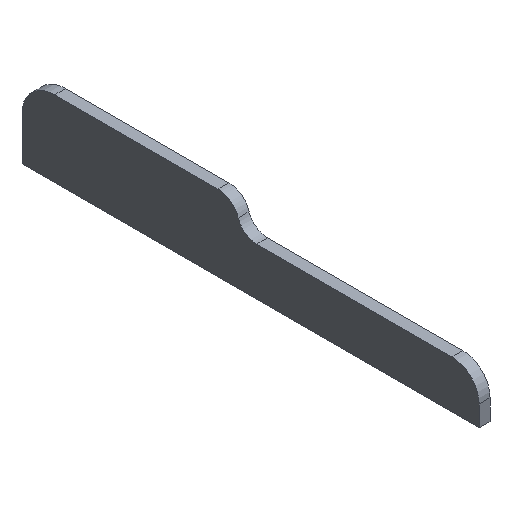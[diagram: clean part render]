
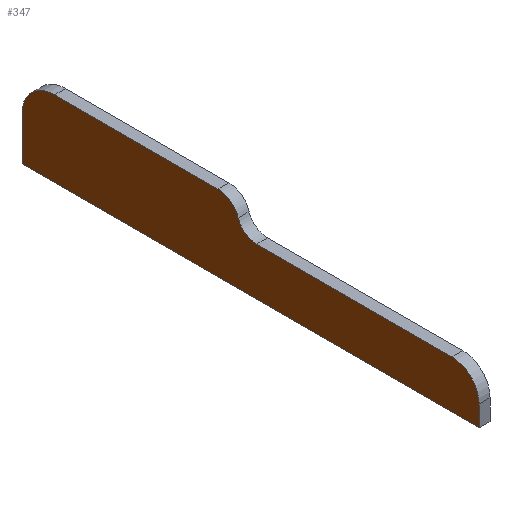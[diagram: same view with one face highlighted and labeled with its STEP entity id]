
A CAD part, isometric view. The second image highlights one B-rep face of the part: STEP entity #347.
In plain terms, the highlighted planar face has unit normal (-1, 0, 0).
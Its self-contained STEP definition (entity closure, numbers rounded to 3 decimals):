
#61=CARTESIAN_POINT('Vertex',(0.,-77.341,0.)) ;
#66=CARTESIAN_POINT('Line Origine',(0.,132.659,0.)) ;
#70=CARTESIAN_POINT('Vertex',(0.,342.659,0.)) ;
#97=CARTESIAN_POINT('Line Origine',(0.,342.659,20.)) ;
#101=CARTESIAN_POINT('Vertex',(0.,342.659,40.)) ;
#128=CARTESIAN_POINT('Axis2P3D Location',(0.,312.659,40.)) ;
#132=CARTESIAN_POINT('Vertex',(0.,312.659,70.)) ;
#159=CARTESIAN_POINT('Line Origine',(0.,237.659,70.)) ;
#163=CARTESIAN_POINT('Vertex',(0.,162.659,70.)) ;
#190=CARTESIAN_POINT('Axis2P3D Location',(0.,162.659,50.344)) ;
#194=CARTESIAN_POINT('Vertex',(0.,143.938,56.333)) ;
#221=CARTESIAN_POINT('Axis2P3D Location',(0.,127.044,61.737)) ;
#225=CARTESIAN_POINT('Vertex',(0.,127.044,44.)) ;
#252=CARTESIAN_POINT('Line Origine',(0.,37.352,44.)) ;
#256=CARTESIAN_POINT('Vertex',(0.,-52.341,44.)) ;
#283=CARTESIAN_POINT('Axis2P3D Location',(0.,-52.341,19.)) ;
#287=CARTESIAN_POINT('Vertex',(0.,-77.341,19.)) ;
#314=CARTESIAN_POINT('Line Origine',(0.,-77.341,9.5)) ;
#331=CARTESIAN_POINT('Axis2P3D Location',(0.,0.,0.)) ;
#67=DIRECTION('Vector Direction',(0.,1.,0.)) ;
#98=DIRECTION('Vector Direction',(0.,0.,-1.)) ;
#129=DIRECTION('Axis2P3D Direction',(1.,0.,0.)) ;
#160=DIRECTION('Vector Direction',(0.,1.,0.)) ;
#191=DIRECTION('Axis2P3D Direction',(1.,0.,0.)) ;
#222=DIRECTION('Axis2P3D Direction',(1.,0.,0.)) ;
#253=DIRECTION('Vector Direction',(0.,-1.,0.)) ;
#284=DIRECTION('Axis2P3D Direction',(1.,0.,0.)) ;
#315=DIRECTION('Vector Direction',(0.,0.,-1.)) ;
#332=DIRECTION('Axis2P3D Direction',(1.,0.,0.)) ;
#333=DIRECTION('Axis2P3D XDirection',(0.,1.,0.)) ;
#130=AXIS2_PLACEMENT_3D('Circle Axis2P3D',#128,#129,$) ;
#192=AXIS2_PLACEMENT_3D('Circle Axis2P3D',#190,#191,$) ;
#223=AXIS2_PLACEMENT_3D('Circle Axis2P3D',#221,#222,$) ;
#285=AXIS2_PLACEMENT_3D('Circle Axis2P3D',#283,#284,$) ;
#334=AXIS2_PLACEMENT_3D('Plane Axis2P3D',#331,#332,#333) ;
#337=ORIENTED_EDGE('',*,*,#318,.F.) ;
#338=ORIENTED_EDGE('',*,*,#289,.F.) ;
#339=ORIENTED_EDGE('',*,*,#258,.F.) ;
#340=ORIENTED_EDGE('',*,*,#227,.F.) ;
#341=ORIENTED_EDGE('',*,*,#196,.F.) ;
#342=ORIENTED_EDGE('',*,*,#165,.F.) ;
#343=ORIENTED_EDGE('',*,*,#134,.F.) ;
#344=ORIENTED_EDGE('',*,*,#103,.F.) ;
#345=ORIENTED_EDGE('',*,*,#72,.F.) ;
#68=VECTOR('Line Direction',#67,1.) ;
#99=VECTOR('Line Direction',#98,1.) ;
#161=VECTOR('Line Direction',#160,1.) ;
#254=VECTOR('Line Direction',#253,1.) ;
#316=VECTOR('Line Direction',#315,1.) ;
#347=ADVANCED_FACE('Corps principal',(#346),#335,.F.) ;
#131=CIRCLE('generated circle',#130,30.) ;
#193=CIRCLE('generated circle',#192,19.656) ;
#224=CIRCLE('generated circle',#223,17.737) ;
#286=CIRCLE('generated circle',#285,25.) ;
#72=EDGE_CURVE('',#62,#71,#69,.T.) ;
#103=EDGE_CURVE('',#71,#102,#100,.F.) ;
#134=EDGE_CURVE('',#102,#133,#131,.T.) ;
#165=EDGE_CURVE('',#133,#164,#162,.F.) ;
#196=EDGE_CURVE('',#164,#195,#193,.T.) ;
#227=EDGE_CURVE('',#195,#226,#224,.F.) ;
#258=EDGE_CURVE('',#226,#257,#255,.T.) ;
#289=EDGE_CURVE('',#257,#288,#286,.T.) ;
#318=EDGE_CURVE('',#288,#62,#317,.T.) ;
#336=EDGE_LOOP('',(#337,#338,#339,#340,#341,#342,#343,#344,#345)) ;
#346=FACE_OUTER_BOUND('',#336,.T.) ;
#69=LINE('Line',#66,#68) ;
#100=LINE('Line',#97,#99) ;
#162=LINE('Line',#159,#161) ;
#255=LINE('Line',#252,#254) ;
#317=LINE('Line',#314,#316) ;
#335=PLANE('Plane',#334) ;
#62=VERTEX_POINT('',#61) ;
#71=VERTEX_POINT('',#70) ;
#102=VERTEX_POINT('',#101) ;
#133=VERTEX_POINT('',#132) ;
#164=VERTEX_POINT('',#163) ;
#195=VERTEX_POINT('',#194) ;
#226=VERTEX_POINT('',#225) ;
#257=VERTEX_POINT('',#256) ;
#288=VERTEX_POINT('',#287) ;
